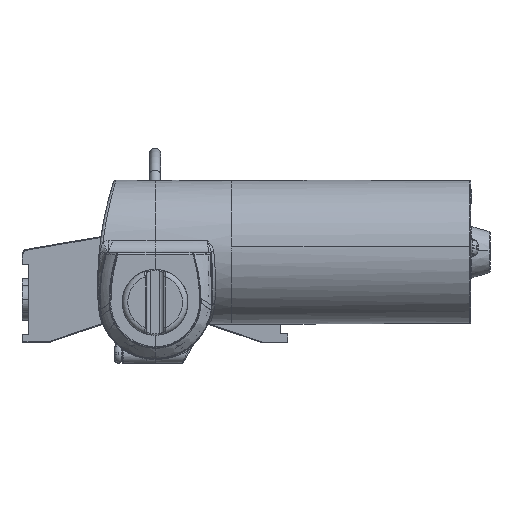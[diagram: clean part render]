
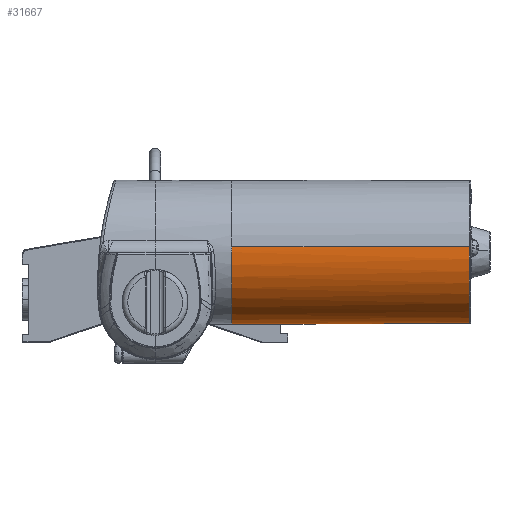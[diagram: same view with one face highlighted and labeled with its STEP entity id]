
A CAD part, left-side view. The second image highlights one B-rep face of the part: STEP entity #31667.
In plain terms, the highlighted cylindrical face has radius 26.25 mm (diameter 52.5 mm), a partial arc.
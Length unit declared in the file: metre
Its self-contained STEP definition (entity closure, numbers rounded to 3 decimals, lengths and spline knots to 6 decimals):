
#5251=CARTESIAN_POINT('',(-0.008,-0.0255,0.));
#5252=DIRECTION('',(0.,1.,0.));
#5253=DIRECTION('',(-1.,0.,0.));
#5254=AXIS2_PLACEMENT_3D('',#5251,#5252,#5253);
#5299=CARTESIAN_POINT('',(-0.008,-0.0255,0.));
#5300=DIRECTION('',(0.,1.,0.));
#5301=DIRECTION('',(0.,0.,-1.));
#5302=AXIS2_PLACEMENT_3D('',#5299,#5300,#5301);
#5304=DIRECTION('',(0.,1.,0.));
#5305=VECTOR('',#5304,0.0868);
#5306=CARTESIAN_POINT('',(-0.034169,-0.1123,0.00206));
#5307=LINE('',#5306,#5305);
#5308=CARTESIAN_POINT('',(-0.008,-0.0255,0.));
#5309=DIRECTION('',(0.,-1.,0.));
#5310=DIRECTION('',(0.,0.,-1.));
#5311=AXIS2_PLACEMENT_3D('',#5308,#5309,#5310);
#5313=DIRECTION('',(0.,-1.,0.));
#5314=VECTOR('',#5313,0.0868);
#5315=CARTESIAN_POINT('',(0.018169,-0.0255,
-0.00206));
#5316=LINE('',#5315,#5314);
#5374=CARTESIAN_POINT('',(-0.008,-0.1123,0.));
#5375=DIRECTION('',(0.,-1.,0.));
#5376=DIRECTION('',(-0.997,0.,0.078));
#5377=AXIS2_PLACEMENT_3D('',#5374,#5375,#5376);
#22374=CARTESIAN_POINT('',(-0.03425,-0.0255,0.));
#22375=CARTESIAN_POINT('',(-0.034169,-0.0255,0.00206));
#22376=VERTEX_POINT('',#22374);
#22377=VERTEX_POINT('',#22375);
#22402=CARTESIAN_POINT('',(-0.008,-0.0255,-0.02625));
#22403=VERTEX_POINT('',#22402);
#22404=CARTESIAN_POINT('',(-0.034169,-0.1123,0.00206));
#22405=VERTEX_POINT('',#22404);
#22406=CARTESIAN_POINT('',(0.018169,-0.0255,
-0.00206));
#22407=VERTEX_POINT('',#22406);
#22408=CARTESIAN_POINT('',(0.018169,-0.1123,-0.00206));
#22409=VERTEX_POINT('',#22408);
#31650=CARTESIAN_POINT('',(-0.008,-0.114036,0.));
#31651=DIRECTION('',(0.,1.,0.));
#31652=DIRECTION('',(-0.997,0.,0.078));
#31653=AXIS2_PLACEMENT_3D('',#31650,#31651,#31652);
#31654=CYLINDRICAL_SURFACE('',#31653,0.02625);
#31656=ORIENTED_EDGE('',*,*,#31655,.T.);
#31657=ORIENTED_EDGE('',*,*,#31601,.F.);
#31658=ORIENTED_EDGE('',*,*,#31645,.F.);
#31660=ORIENTED_EDGE('',*,*,#31659,.T.);
#31662=ORIENTED_EDGE('',*,*,#31661,.T.);
#31664=ORIENTED_EDGE('',*,*,#31663,.F.);
#31665=EDGE_LOOP('',(#31656,#31657,#31658,#31660,#31662,#31664));
#31666=FACE_OUTER_BOUND('',#31665,.F.);
#31667=ADVANCED_FACE('',(#31666),#31654,.F.);
#5255=CIRCLE('',#5254,0.02625);
#5303=CIRCLE('',#5302,0.02625);
#5312=CIRCLE('',#5311,0.02625);
#5378=CIRCLE('',#5377,0.02625);
#31601=EDGE_CURVE('',#22376,#22377,#5255,.T.);
#31645=EDGE_CURVE('',#22403,#22376,#5303,.T.);
#31655=EDGE_CURVE('',#22405,#22377,#5307,.T.);
#31659=EDGE_CURVE('',#22403,#22407,#5312,.T.);
#31661=EDGE_CURVE('',#22407,#22409,#5316,.T.);
#31663=EDGE_CURVE('',#22405,#22409,#5378,.T.);
